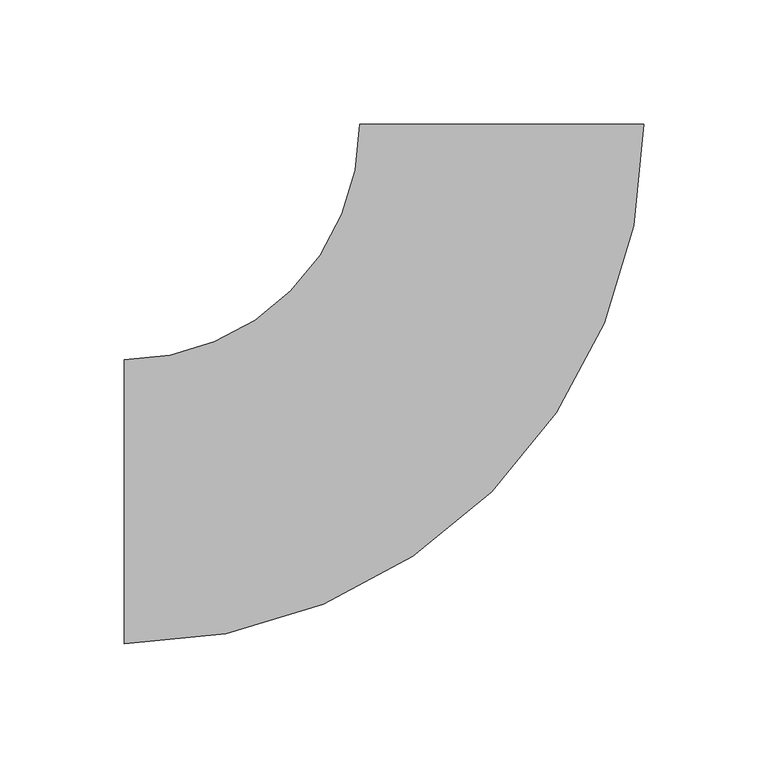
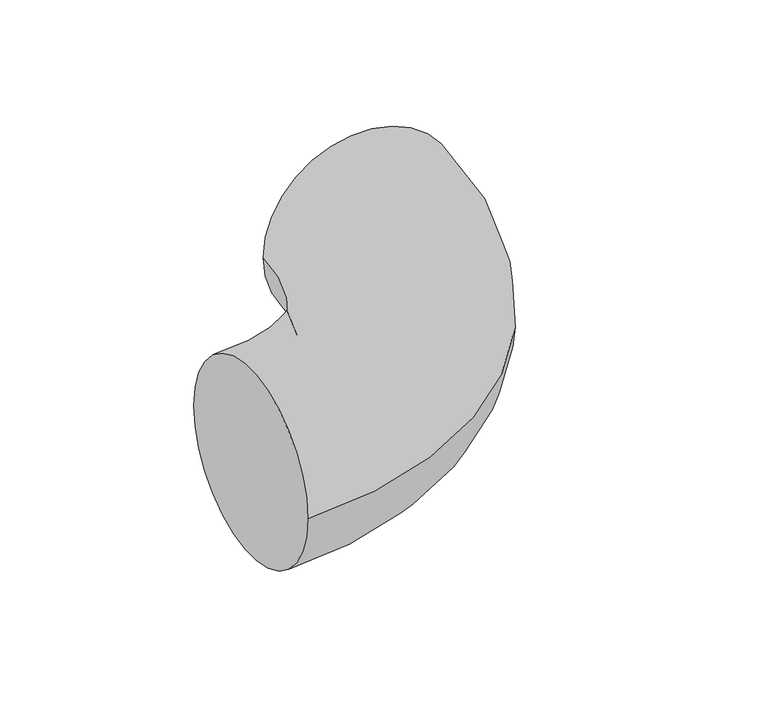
"""IFC4 building model written with IfcOpenShell, lengths in millimetres: pipe fitting geometry, ADSK_ДетальСтальнаяСварная_Отвод_ГОСТ17375-2001 : Исполнение 1_Оцинкованные."""

from ifc_helpers import new_model, si_unit, point, frame, origin, place, context, project, spatial, circle_curve, ellipse_curve, trimmed, source, transform, mapped, element, save
from ifc_brep_helpers import plane_surface, revolved_surface, advanced_brep


def pipe_fitting_8510a795(model_context):
    return source(origin(), model_context, "Body", "AdvancedBrep", [
        advanced_brep(
        [(-152.0, -57.15, 0.0), (-152.0, 57.15, 0.0), (57.15, 152.0, 0.0), (-57.15, 152.0, 0.0)],
        [
            (0, 1, circle_curve(frame((-152.0, 0.0, 0.0), z_axis=(-1.0, 0.0, 0.0), x_axis=(0.0, 1.0, 0.0)), 57.15)),
            (1, 0, circle_curve(frame((-152.0, 0.0, 0.0), z_axis=(-1.0, 0.0, 0.0), x_axis=(0.0, 1.0, 0.0)), 57.15)),
            (2, 3, circle_curve(frame((0.0, 152.0, 0.0), z_axis=(0.0, 1.0, 0.0), x_axis=(-1.0, 0.0, 0.0)), 57.15)),
            (3, 2, circle_curve(frame((0.0, 152.0, 0.0), z_axis=(0.0, 1.0, 0.0), x_axis=(-1.0, 0.0, 0.0)), 57.15)),
            (3, 1, circle_curve(frame((-152.0, 152.0, 0.0), z_axis=(0.0, 0.0, -1.0), x_axis=(0.0, -1.0, 0.0)), 94.85)),
            (0, 2, circle_curve(frame((-152.0, 152.0, 0.0), z_axis=(0.0, 0.0, 1.0), x_axis=(0.0, -1.0, 0.0)), 209.15)),
        ],
        [
            plane_surface(frame((-152.0, 0.0, 0.0), z_axis=(-1.0, 0.0, 0.0), x_axis=(0.0, 0.0, 1.0))),
            plane_surface(frame((0.0, 152.0, 0.0), z_axis=(0.0, 1.0, 0.0), x_axis=(0.0, 0.0, 1.0))),
            revolved_surface(trimmed(ellipse_curve(frame((-152.0, 0.0, 0.0), z_axis=(-1.0, 0.0, 0.0), x_axis=(0.0, 1.0, 0.0)), 57.15, 57.15), [point((-152.0, -57.15, 0.0))], [point((-152.0, 57.15, 0.0))], True, "CARTESIAN"), (-152.0, 152.0, 0.0), (0.0, 0.0, 1.0)),
            revolved_surface(trimmed(ellipse_curve(frame((-152.0, 0.0, 0.0), z_axis=(-1.0, 0.0, 0.0), x_axis=(0.0, 1.0, 0.0)), 57.15, 57.15), [point((-152.0, 57.15, 0.0))], [point((-152.0, -57.15, 0.0))], True, "CARTESIAN"), (-152.0, 152.0, 0.0), (0.0, 0.0, 1.0)),
        ],
        [
            (0, [[1, 2]]),
            (1, [[3, 4]]),
            (2, [[5, -1, 6, -4]]),
            (3, [[-6, -2, -5, -3]]),
        ],
    ),
    ])


if __name__ == "__main__":
    model = new_model("IFC4")
    model_context = context("Model", 3, world=origin())
    ifc_project = project(units=[si_unit("LENGTHUNIT", "METRE", prefix="MILLI")], contexts=[model_context])
    site = spatial("IfcSite", under=ifc_project)
    building = spatial("IfcBuilding", under=site)
    placement = place(None, origin())
    pipe_fitting_shape = pipe_fitting_8510a795(model_context)
    element("IfcPipeFitting", 1, ObjectType="ADSK_ДетальСтальнаяСварная_Отвод_ГОСТ17375-2001 : Исполнение 1_Оцинкованные", at=placement, inside=building, context=model_context, shape_type="MappedRepresentation", body=[
        mapped(pipe_fitting_shape, transform((0.0, 0.0, 0.0), x_axis=(1.0, 0.0, 0.0), y_axis=(0.0, 1.0, 0.0), z_axis=(0.0, 0.0, 1.0))),
    ])
    save(model, "model.ifc")
